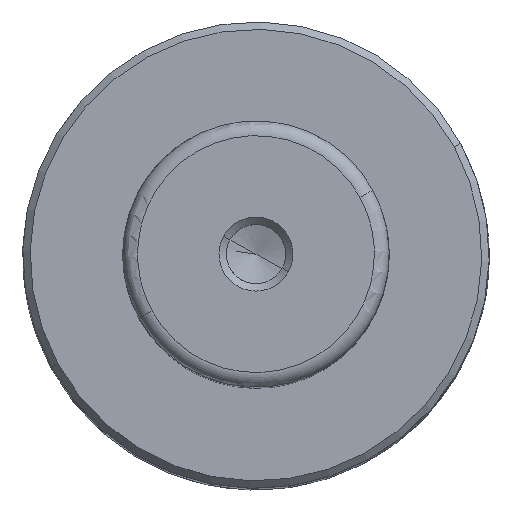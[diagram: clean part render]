
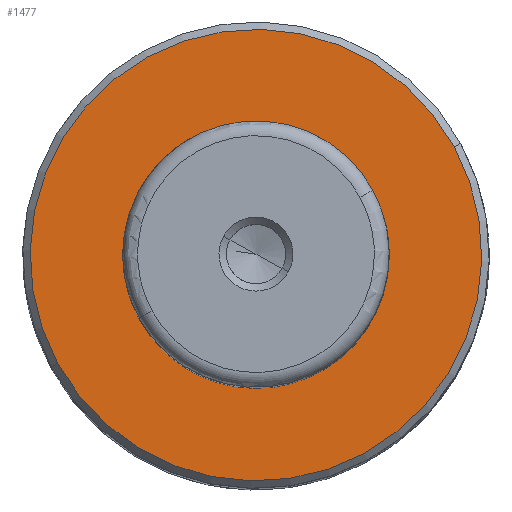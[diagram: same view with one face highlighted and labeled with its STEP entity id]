
A CAD part, top view. The second image highlights one B-rep face of the part: STEP entity #1477.
In plain terms, the highlighted planar face has unit normal (0, 0, 1).
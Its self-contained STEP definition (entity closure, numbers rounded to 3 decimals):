
#1364 = VERTEX_POINT('',#1365);
#1365 = CARTESIAN_POINT('',(26.766,14.622,133.));
#1371 = EDGE_CURVE('',#1364,#1372,#1374,.T.);
#1372 = VERTEX_POINT('',#1373);
#1373 = CARTESIAN_POINT('',(-26.766,-14.622,133.));
#1374 = CIRCLE('',#1375,30.5);
#1375 = AXIS2_PLACEMENT_3D('',#1376,#1377,#1378);
#1376 = CARTESIAN_POINT('',(0.,0.,133.));
#1377 = DIRECTION('',(0.,0.,-1.));
#1378 = DIRECTION('',(-1.,0.,0.));
#1464 = EDGE_CURVE('',#1372,#1364,#1465,.T.);
#1465 = CIRCLE('',#1466,30.5);
#1466 = AXIS2_PLACEMENT_3D('',#1467,#1468,#1469);
#1467 = CARTESIAN_POINT('',(0.,0.,133.));
#1468 = DIRECTION('',(0.,0.,-1.));
#1469 = DIRECTION('',(-1.,0.,0.));
#1477 = ADVANCED_FACE('',(#1478),#1482,.T.);
#1478 = FACE_BOUND('',#1479,.T.);
#1479 = EDGE_LOOP('',(#1480,#1481));
#1480 = ORIENTED_EDGE('',*,*,#1371,.F.);
#1481 = ORIENTED_EDGE('',*,*,#1464,.F.);
#1482 = PLANE('',#1483);
#1483 = AXIS2_PLACEMENT_3D('',#1484,#1485,#1486);
#1484 = CARTESIAN_POINT('',(30.5,0.,133.));
#1485 = DIRECTION('',(0.,0.,1.));
#1486 = DIRECTION('',(1.,0.,0.));
